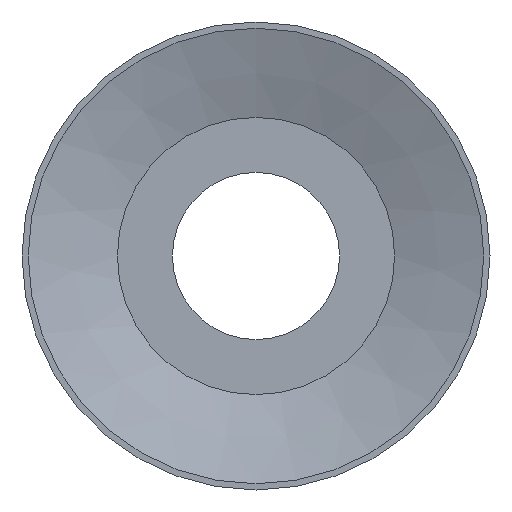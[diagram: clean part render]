
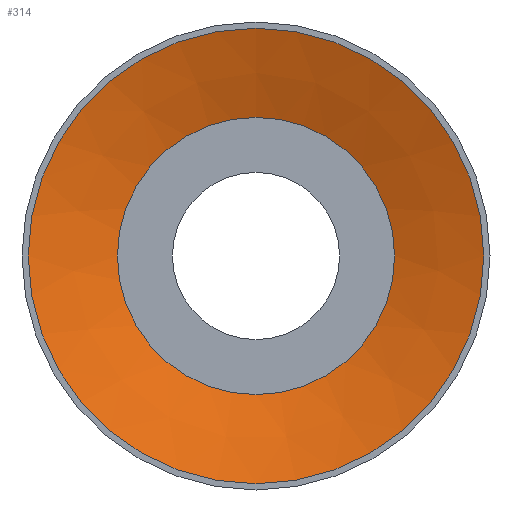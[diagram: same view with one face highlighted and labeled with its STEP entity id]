
A CAD part, front view. The second image highlights one B-rep face of the part: STEP entity #314.
In plain terms, the highlighted conical face has half-angle 71.113 degrees and reference radius 20.443 mm.
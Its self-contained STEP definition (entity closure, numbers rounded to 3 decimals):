
#17 = DIRECTION ( 'NONE',  ( 0., 0., 1. ) ) ;
#71 = VERTEX_POINT ( 'NONE', #490 ) ;
#73 = EDGE_CURVE ( 'NONE', #487, #487, #235, .T. ) ;
#89 = CARTESIAN_POINT ( 'NONE',  ( 0., 0., 0. ) ) ;
#113 = DIRECTION ( 'NONE',  ( 0., 1., 0. ) ) ;
#149 = FACE_BOUND ( 'NONE', #151, .T. ) ;
#151 = EDGE_LOOP ( 'NONE', ( #165 ) ) ;
#160 = AXIS2_PLACEMENT_3D ( 'NONE', #89, #301, #603 ) ;
#165 = ORIENTED_EDGE ( 'NONE', *, *, #73, .T. ) ;
#177 = AXIS2_PLACEMENT_3D ( 'NONE', #441, #556, #400 ) ;
#235 = CIRCLE ( 'NONE', #177, 12.437 ) ;
#276 = CARTESIAN_POINT ( 'NONE',  ( 0., 0., 0. ) ) ;
#285 = CONICAL_SURFACE ( 'NONE', #160, 20.443, 1.241 ) ;
#301 = DIRECTION ( 'NONE',  ( 0., -1., 0. ) ) ;
#314 = ADVANCED_FACE ( 'NONE', ( #149, #657 ), #285, .F. ) ;
#374 = AXIS2_PLACEMENT_3D ( 'NONE', #276, #113, #17 ) ;
#400 = DIRECTION ( 'NONE',  ( 0., 0., 1. ) ) ;
#428 = CARTESIAN_POINT ( 'NONE',  ( 0., 2.739, 12.437 ) ) ;
#441 = CARTESIAN_POINT ( 'NONE',  ( 0., 2.739, 0. ) ) ;
#460 = CIRCLE ( 'NONE', #374, 20.443 ) ;
#487 = VERTEX_POINT ( 'NONE', #428 ) ;
#490 = CARTESIAN_POINT ( 'NONE',  ( 0., 0., 20.443 ) ) ;
#510 = ORIENTED_EDGE ( 'NONE', *, *, #551, .F. ) ;
#551 = EDGE_CURVE ( 'NONE', #71, #71, #460, .T. ) ;
#556 = DIRECTION ( 'NONE',  ( 0., 1., 0. ) ) ;
#596 = EDGE_LOOP ( 'NONE', ( #510 ) ) ;
#603 = DIRECTION ( 'NONE',  ( 0., 0., -1. ) ) ;
#657 = FACE_OUTER_BOUND ( 'NONE', #596, .T. ) ;
